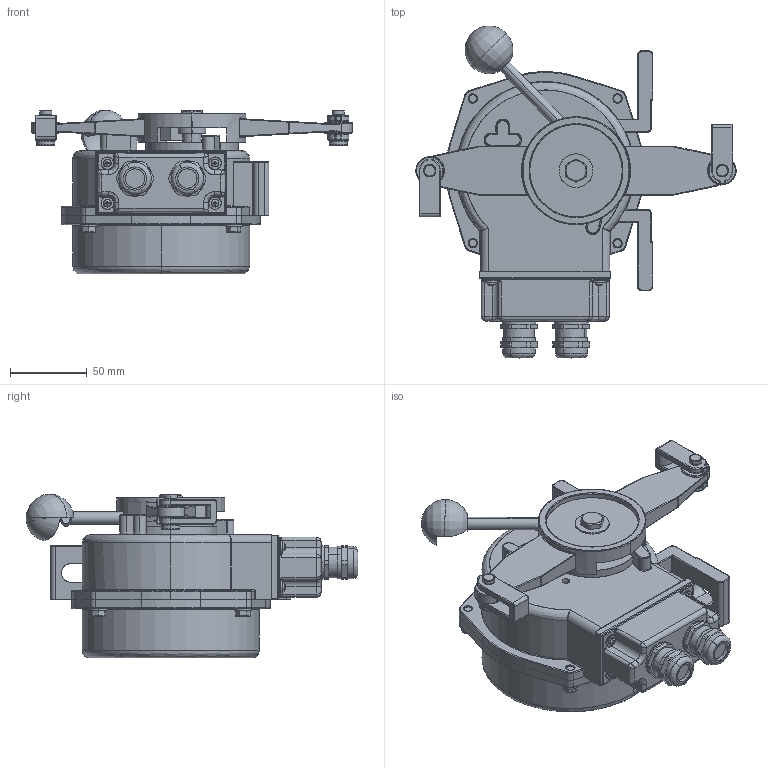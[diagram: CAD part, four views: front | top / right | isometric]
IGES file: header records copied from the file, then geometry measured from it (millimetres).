
Start section: SolidWorks IGES file using analytic representation for surfaces
Global section: file name: C:\Users\Äîì\Desktop\Äàò÷èêè ìîäåëè\RES-N\Êîìïàñ\RES-N.IGS; native system: SolidWorks 2020; preprocessor: SolidWorks 2020; author: Äîì; date: 210210.142627; units: millimetre
Bounding box: 208 x 215.6 x 106.5 mm (x, y, z)
Surface area: 166448.6 mm2 (no closed solid volume)
Topology: 0 solids, 0 shells, 1091 faces, 12534 edges, 12480 vertices
Faces by surface type: bspline 572, revolution 519
